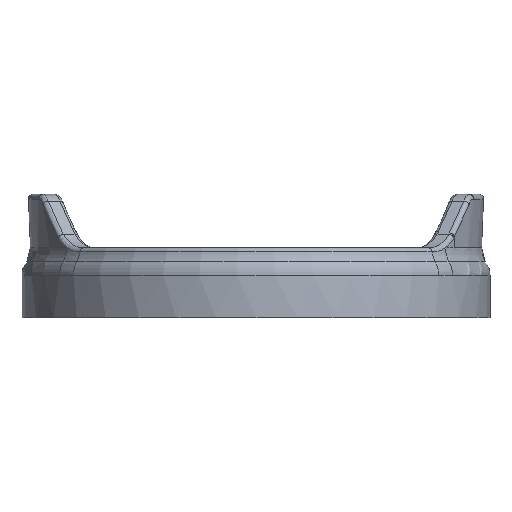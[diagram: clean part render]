
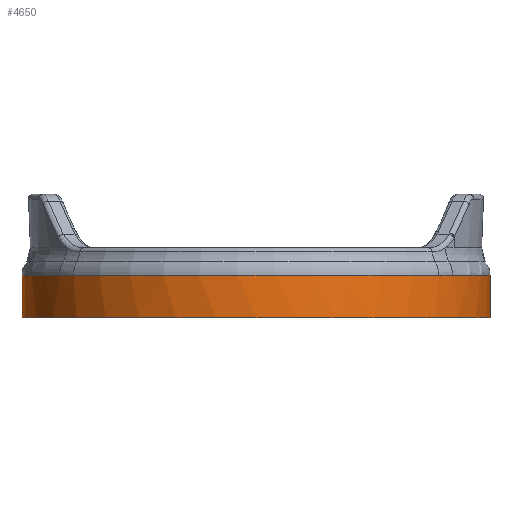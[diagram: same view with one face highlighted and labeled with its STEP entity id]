
A CAD part, front view. The second image highlights one B-rep face of the part: STEP entity #4650.
In plain terms, the highlighted cylindrical face has radius 10.058 mm (diameter 20.116 mm), a partial arc.
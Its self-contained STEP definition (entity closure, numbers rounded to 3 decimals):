
#4141=CARTESIAN_POINT('Axis2P3D Location',(0.,0.,9.6)) ;
#4145=CARTESIAN_POINT('Vertex',(10.058,0.,9.6)) ;
#4147=CARTESIAN_POINT('Vertex',(-10.058,0.,9.6)) ;
#4584=CARTESIAN_POINT('Axis2P3D Location',(0.,0.,11.31)) ;
#4589=CARTESIAN_POINT('Line Origine',(-10.058,0.,11.31)) ;
#4593=CARTESIAN_POINT('Vertex',(-10.058,0.,11.427)) ;
#4596=CARTESIAN_POINT('Line Origine',(10.058,0.,11.31)) ;
#4600=CARTESIAN_POINT('Vertex',(10.058,0.,11.427)) ;
#4603=CARTESIAN_POINT('Axis2P3D Location',(0.,0.,11.427)) ;
#4607=CARTESIAN_POINT('Vertex',(8.448,-5.457,11.427)) ;
#4611=CARTESIAN_POINT('Control Point',(8.448,-5.457,11.427)) ;
#4612=CARTESIAN_POINT('Control Point',(8.312,-5.668,11.427)) ;
#4613=CARTESIAN_POINT('Control Point',(8.168,-5.876,11.42)) ;
#4614=CARTESIAN_POINT('Control Point',(8.012,-6.085,11.416)) ;
#4615=CARTESIAN_POINT('Control Point',(7.849,-6.289,11.416)) ;
#4616=CARTESIAN_POINT('Vertex',(7.849,-6.289,11.416)) ;
#4619=CARTESIAN_POINT('Axis2P3D Location',(0.,0.,11.416)) ;
#4623=CARTESIAN_POINT('Vertex',(-7.849,-6.289,11.416)) ;
#4627=CARTESIAN_POINT('Control Point',(-7.849,-6.289,11.416)) ;
#4628=CARTESIAN_POINT('Control Point',(-8.012,-6.086,11.416)) ;
#4629=CARTESIAN_POINT('Control Point',(-8.168,-5.876,11.42)) ;
#4630=CARTESIAN_POINT('Control Point',(-8.312,-5.668,11.427)) ;
#4631=CARTESIAN_POINT('Control Point',(-8.448,-5.457,11.427)) ;
#4632=CARTESIAN_POINT('Vertex',(-8.448,-5.457,11.427)) ;
#4635=CARTESIAN_POINT('Axis2P3D Location',(0.,0.,11.427)) ;
#4142=DIRECTION('Axis2P3D Direction',(0.,0.,1.)) ;
#4585=DIRECTION('Axis2P3D Direction',(0.,0.,-1.)) ;
#4586=DIRECTION('Axis2P3D XDirection',(1.,0.,0.)) ;
#4590=DIRECTION('Vector Direction',(0.,0.,-1.)) ;
#4597=DIRECTION('Vector Direction',(0.,0.,-1.)) ;
#4604=DIRECTION('Axis2P3D Direction',(0.,0.,-1.)) ;
#4620=DIRECTION('Axis2P3D Direction',(0.,0.,-1.)) ;
#4636=DIRECTION('Axis2P3D Direction',(0.,0.,-1.)) ;
#4143=AXIS2_PLACEMENT_3D('Circle Axis2P3D',#4141,#4142,$) ;
#4587=AXIS2_PLACEMENT_3D('Cylinder Axis2P3D',#4584,#4585,#4586) ;
#4605=AXIS2_PLACEMENT_3D('Circle Axis2P3D',#4603,#4604,$) ;
#4621=AXIS2_PLACEMENT_3D('Circle Axis2P3D',#4619,#4620,$) ;
#4637=AXIS2_PLACEMENT_3D('Circle Axis2P3D',#4635,#4636,$) ;
#4641=ORIENTED_EDGE('',*,*,#4595,.F.) ;
#4642=ORIENTED_EDGE('',*,*,#4149,.F.) ;
#4643=ORIENTED_EDGE('',*,*,#4602,.T.) ;
#4644=ORIENTED_EDGE('',*,*,#4609,.T.) ;
#4645=ORIENTED_EDGE('',*,*,#4618,.T.) ;
#4646=ORIENTED_EDGE('',*,*,#4625,.T.) ;
#4647=ORIENTED_EDGE('',*,*,#4634,.T.) ;
#4648=ORIENTED_EDGE('',*,*,#4639,.T.) ;
#4591=VECTOR('Line Direction',#4590,1.) ;
#4598=VECTOR('Line Direction',#4597,1.) ;
#4650=ADVANCED_FACE('\X2\96F64EF651E04F554F53\X0\',(#4649),#4588,.T.) ;
#4610=B_SPLINE_CURVE_WITH_KNOTS('',4,(#4611,#4612,#4613,#4614,#4615),.UNSPECIFIED.,.F.,.U.,(5,5),(0.777,2.774),.UNSPECIFIED.) ;
#4626=B_SPLINE_CURVE_WITH_KNOTS('',4,(#4627,#4628,#4629,#4630,#4631),.UNSPECIFIED.,.F.,.U.,(5,5),(0.73,2.727),.UNSPECIFIED.) ;
#4144=CIRCLE('generated circle',#4143,10.058) ;
#4606=CIRCLE('generated circle',#4605,10.058) ;
#4622=CIRCLE('generated circle',#4621,10.058) ;
#4638=CIRCLE('generated circle',#4637,10.058) ;
#4588=CYLINDRICAL_SURFACE('generated cylinder',#4587,10.058) ;
#4149=EDGE_CURVE('',#4146,#4148,#4144,.F.) ;
#4595=EDGE_CURVE('',#4148,#4594,#4592,.F.) ;
#4602=EDGE_CURVE('',#4146,#4601,#4599,.F.) ;
#4609=EDGE_CURVE('',#4601,#4608,#4606,.T.) ;
#4618=EDGE_CURVE('',#4608,#4617,#4610,.T.) ;
#4625=EDGE_CURVE('',#4617,#4624,#4622,.T.) ;
#4634=EDGE_CURVE('',#4624,#4633,#4626,.T.) ;
#4639=EDGE_CURVE('',#4633,#4594,#4638,.T.) ;
#4640=EDGE_LOOP('',(#4641,#4642,#4643,#4644,#4645,#4646,#4647,#4648)) ;
#4649=FACE_OUTER_BOUND('',#4640,.T.) ;
#4592=LINE('Line',#4589,#4591) ;
#4599=LINE('Line',#4596,#4598) ;
#4146=VERTEX_POINT('',#4145) ;
#4148=VERTEX_POINT('',#4147) ;
#4594=VERTEX_POINT('',#4593) ;
#4601=VERTEX_POINT('',#4600) ;
#4608=VERTEX_POINT('',#4607) ;
#4617=VERTEX_POINT('',#4616) ;
#4624=VERTEX_POINT('',#4623) ;
#4633=VERTEX_POINT('',#4632) ;
